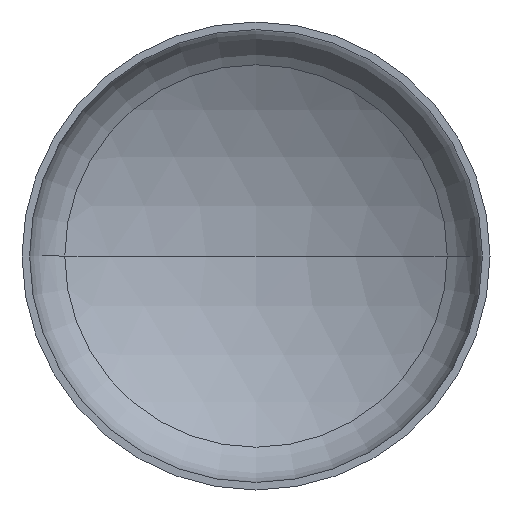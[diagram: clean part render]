
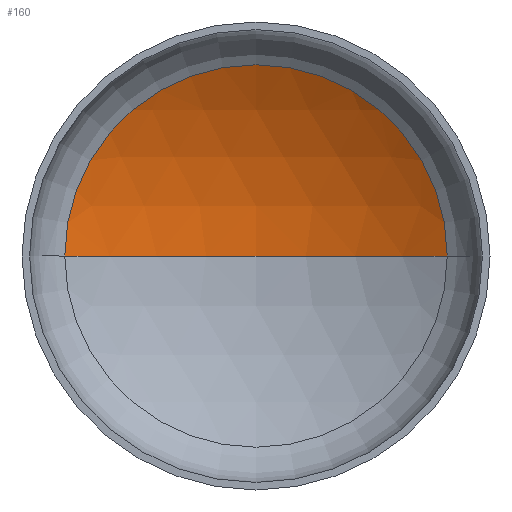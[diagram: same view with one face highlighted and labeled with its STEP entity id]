
A CAD part, front view. The second image highlights one B-rep face of the part: STEP entity #160.
In plain terms, the highlighted spherical face has radius 1040 mm.
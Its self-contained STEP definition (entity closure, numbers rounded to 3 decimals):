
#8 = DIRECTION ( 'NONE',  ( -1., 0., 0. ) ) ;
#13 = ORIENTED_EDGE ( 'NONE', *, *, #322, .T. ) ;
#14 = EDGE_LOOP ( 'NONE', ( #19, #55, #13 ) ) ;
#19 = ORIENTED_EDGE ( 'NONE', *, *, #381, .F. ) ;
#22 = VERTEX_POINT ( 'NONE', #350 ) ;
#27 = VERTEX_POINT ( 'NONE', #250 ) ;
#30 = AXIS2_PLACEMENT_3D ( 'NONE', #373, #184, #187 ) ;
#33 = AXIS2_PLACEMENT_3D ( 'NONE', #377, #237, #400 ) ;
#55 = ORIENTED_EDGE ( 'NONE', *, *, #338, .T. ) ;
#63 = AXIS2_PLACEMENT_3D ( 'NONE', #376, #210, #8 ) ;
#83 = DIRECTION ( 'NONE',  ( 1., 0., 0. ) ) ;
#160 = ADVANCED_FACE ( 'NONE', ( #385 ), #256, .F. ) ;
#184 = DIRECTION ( 'NONE',  ( 0., 0., -1. ) ) ;
#187 = DIRECTION ( 'NONE',  ( -1., 0., 0. ) ) ;
#210 = DIRECTION ( 'NONE',  ( 0., 0., -1. ) ) ;
#237 = DIRECTION ( 'NONE',  ( 0., -1., 0. ) ) ;
#250 = CARTESIAN_POINT ( 'NONE',  ( 0., 387.81, 0. ) ) ;
#256 = SPHERICAL_SURFACE ( 'NONE', #63, 1040. ) ;
#258 = DIRECTION ( 'NONE',  ( 0., 0., 1. ) ) ;
#322 = EDGE_CURVE ( 'NONE', #411, #22, #355, .T. ) ;
#338 = EDGE_CURVE ( 'NONE', #27, #411, #346, .T. ) ;
#346 = CIRCLE ( 'NONE', #30, 1040. ) ;
#350 = CARTESIAN_POINT ( 'NONE',  ( -531.143, 241.95, 0. ) ) ;
#355 = CIRCLE ( 'NONE', #33, 531.143 ) ;
#356 = CARTESIAN_POINT ( 'NONE',  ( 531.143, 241.95, 0. ) ) ;
#373 = CARTESIAN_POINT ( 'NONE',  ( 0., -652.19, 0. ) ) ;
#376 = CARTESIAN_POINT ( 'NONE',  ( 0., -652.19, 0. ) ) ;
#377 = CARTESIAN_POINT ( 'NONE',  ( 0., 241.95, 0. ) ) ;
#378 = AXIS2_PLACEMENT_3D ( 'NONE', #402, #258, #83 ) ;
#381 = EDGE_CURVE ( 'NONE', #27, #22, #394, .T. ) ;
#385 = FACE_OUTER_BOUND ( 'NONE', #14, .T. ) ;
#394 = CIRCLE ( 'NONE', #378, 1040. ) ;
#400 = DIRECTION ( 'NONE',  ( 1., 0., 0. ) ) ;
#402 = CARTESIAN_POINT ( 'NONE',  ( 0., -652.19, 0. ) ) ;
#411 = VERTEX_POINT ( 'NONE', #356 ) ;
